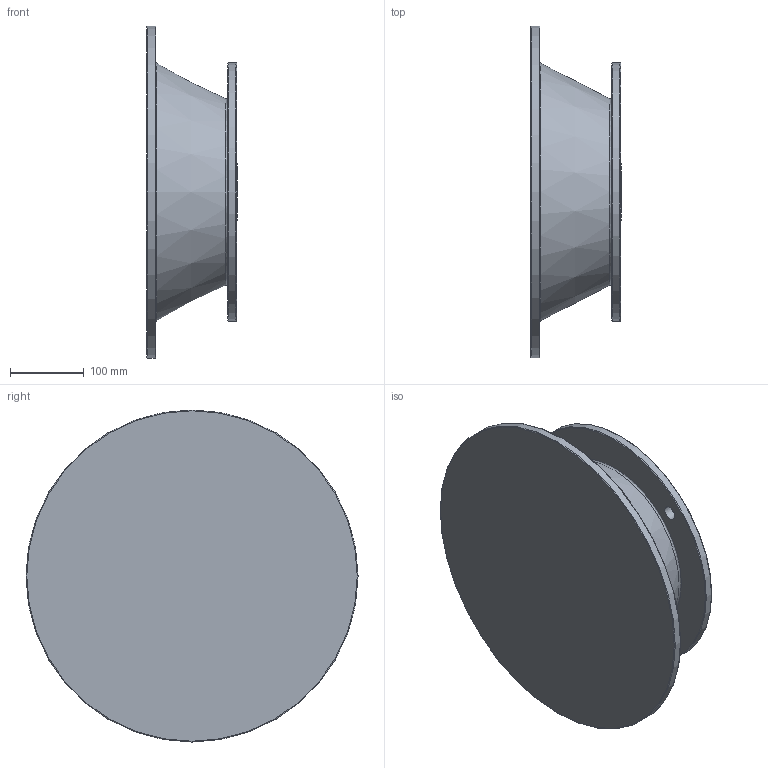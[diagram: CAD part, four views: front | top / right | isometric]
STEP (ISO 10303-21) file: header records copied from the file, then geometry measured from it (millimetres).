
FILE_DESCRIPTION((''),'2;1');
FILE_NAME('D:\PAWEŁ\ZLECENIA\2011 DualSystem\Przekładnie DR\DR140\STEP\180_B5_L121,5.stp','2012-06-11T12:55:34',('admin'),(''),'Autodesk Inventor 2009','Autodesk Inventor 2009','');
FILE_SCHEMA(('AUTOMOTIVE_DESIGN { 1 0 10303 214 1 1 1 1 }'));
Length unit declared in the file: millimetre
Products named in the file (1): 180_B5_L121,5
Bounding box: 122 x 450 x 450 mm (x, y, z)
Volume: 3436905 mm3; surface area: 692016.2 mm2
Topology: 1 solids, 1 shells, 30 faces, 58 edges, 36 vertices
Faces by surface type: plane 11, cylinder 6, bspline 6, torus 5, cone 2
Full cylindrical faces by diameter (mm): 78 x1, 236.514 x1, 250 x1, 350 x1, 450 x1
Entity records: 895 total; most frequent: CARTESIAN_POINT 281, DIRECTION 120, ORIENTED_EDGE 80, EDGE_LOOP 62, AXIS2_PLACEMENT_3D 55, EDGE_CURVE 40, VERTEX_POINT 36, FACE_BOUND 32
